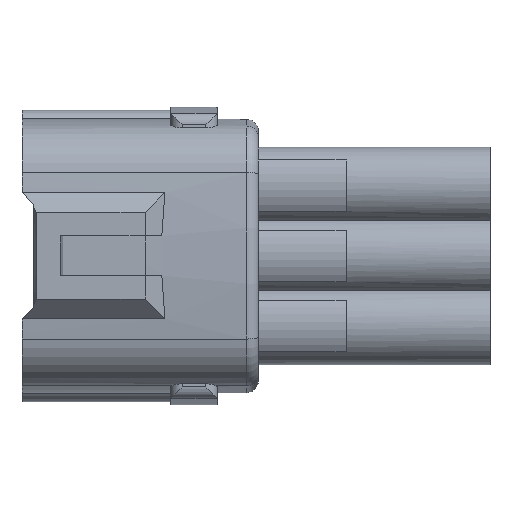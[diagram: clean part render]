
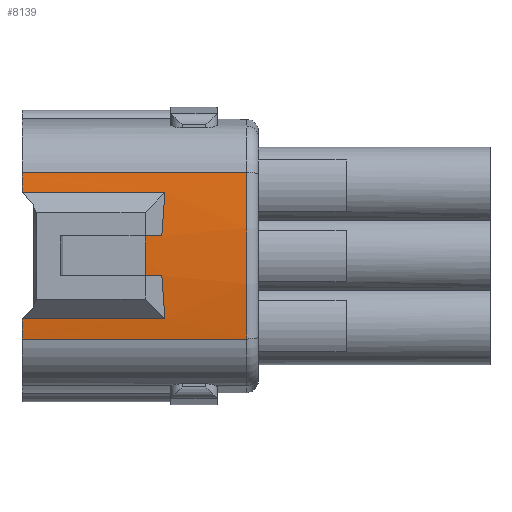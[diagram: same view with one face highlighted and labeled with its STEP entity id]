
A CAD part, top view. The second image highlights one B-rep face of the part: STEP entity #8139.
In plain terms, the highlighted cylindrical face has radius 50.2 mm (diameter 100.4 mm), a partial arc.
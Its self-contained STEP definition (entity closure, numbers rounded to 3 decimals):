
#2578=AXIS2_PLACEMENT_3D('Circle Axis2P3D',#2576,#2577,$) ;
#3229=AXIS2_PLACEMENT_3D('Circle Axis2P3D',#3227,#3228,$) ;
#3409=AXIS2_PLACEMENT_3D('Circle Axis2P3D',#3407,#3408,$) ;
#8104=AXIS2_PLACEMENT_3D('Cylinder Axis2P3D',#8101,#8102,#8103) ;
#8122=AXIS2_PLACEMENT_3D('Circle Axis2P3D',#8120,#8121,$) ;
#59=CARTESIAN_POINT('Vertex',(-6.786,11.39,7.51)) ;
#62=CARTESIAN_POINT('Line Origine',(-12.893,11.39,7.51)) ;
#66=CARTESIAN_POINT('Vertex',(-19.,11.39,7.51)) ;
#101=CARTESIAN_POINT('Vertex',(-7.047,4.3,7.771)) ;
#115=CARTESIAN_POINT('Vertex',(-6.786,0.61,7.51)) ;
#119=CARTESIAN_POINT('Control Point',(-6.786,0.61,7.51)) ;
#120=CARTESIAN_POINT('Control Point',(-6.865,1.343,7.589)) ;
#121=CARTESIAN_POINT('Control Point',(-6.931,2.08,7.655)) ;
#122=CARTESIAN_POINT('Control Point',(-6.983,2.819,7.707)) ;
#123=CARTESIAN_POINT('Control Point',(-7.022,3.559,7.746)) ;
#124=CARTESIAN_POINT('Control Point',(-7.047,4.3,7.771)) ;
#139=CARTESIAN_POINT('Vertex',(-7.047,7.7,7.771)) ;
#143=CARTESIAN_POINT('Control Point',(-7.047,7.7,7.771)) ;
#144=CARTESIAN_POINT('Control Point',(-7.022,8.441,7.746)) ;
#145=CARTESIAN_POINT('Control Point',(-6.983,9.181,7.707)) ;
#146=CARTESIAN_POINT('Control Point',(-6.931,9.92,7.655)) ;
#147=CARTESIAN_POINT('Control Point',(-6.865,10.657,7.589)) ;
#148=CARTESIAN_POINT('Control Point',(-6.786,11.39,7.51)) ;
#190=CARTESIAN_POINT('Vertex',(-19.,0.61,7.51)) ;
#193=CARTESIAN_POINT('Line Origine',(-12.893,0.61,7.51)) ;
#2573=CARTESIAN_POINT('Vertex',(-8.476,4.3,7.771)) ;
#2576=CARTESIAN_POINT('Axis2P3D Location',(-8.476,6.,-42.4)) ;
#2580=CARTESIAN_POINT('Vertex',(-8.476,7.7,7.771)) ;
#2726=CARTESIAN_POINT('Line Origine',(-7.761,7.7,7.771)) ;
#2745=CARTESIAN_POINT('Line Origine',(-7.761,4.3,7.771)) ;
#3224=CARTESIAN_POINT('Vertex',(-19.,-1.113,7.293)) ;
#3227=CARTESIAN_POINT('Axis2P3D Location',(-19.,6.,-42.4)) ;
#3407=CARTESIAN_POINT('Axis2P3D Location',(-19.,6.,-42.4)) ;
#3411=CARTESIAN_POINT('Vertex',(-19.,13.113,7.293)) ;
#8101=CARTESIAN_POINT('Axis2P3D Location',(-9.51,6.,-42.4)) ;
#8106=CARTESIAN_POINT('Line Origine',(-19.,13.113,7.293)) ;
#8110=CARTESIAN_POINT('Vertex',(0.2,13.113,7.293)) ;
#8113=CARTESIAN_POINT('Line Origine',(-19.,-1.113,7.293)) ;
#8117=CARTESIAN_POINT('Vertex',(0.2,-1.113,7.293)) ;
#8120=CARTESIAN_POINT('Axis2P3D Location',(0.2,6.,-42.4)) ;
#63=DIRECTION('Vector Direction',(-1.,0.,0.)) ;
#194=DIRECTION('Vector Direction',(-1.,0.,0.)) ;
#2577=DIRECTION('Axis2P3D Direction',(-1.,0.,0.)) ;
#2727=DIRECTION('Vector Direction',(-1.,0.,0.)) ;
#2746=DIRECTION('Vector Direction',(-1.,0.,0.)) ;
#3228=DIRECTION('Axis2P3D Direction',(1.,0.,0.)) ;
#3408=DIRECTION('Axis2P3D Direction',(1.,0.,0.)) ;
#8102=DIRECTION('Axis2P3D Direction',(-1.,0.,0.)) ;
#8103=DIRECTION('Axis2P3D XDirection',(0.,-0.142,0.99)) ;
#8107=DIRECTION('Vector Direction',(-1.,0.,0.)) ;
#8114=DIRECTION('Vector Direction',(-1.,0.,0.)) ;
#8121=DIRECTION('Axis2P3D Direction',(-1.,0.,0.)) ;
#64=VECTOR('Line Direction',#63,1.) ;
#195=VECTOR('Line Direction',#194,1.) ;
#2728=VECTOR('Line Direction',#2727,1.) ;
#2747=VECTOR('Line Direction',#2746,1.) ;
#8108=VECTOR('Line Direction',#8107,1.) ;
#8115=VECTOR('Line Direction',#8114,1.) ;
#8126=ORIENTED_EDGE('',*,*,#8112,.T.) ;
#8127=ORIENTED_EDGE('',*,*,#3413,.T.) ;
#8128=ORIENTED_EDGE('',*,*,#68,.F.) ;
#8129=ORIENTED_EDGE('',*,*,#149,.F.) ;
#8130=ORIENTED_EDGE('',*,*,#2730,.T.) ;
#8131=ORIENTED_EDGE('',*,*,#2582,.F.) ;
#8132=ORIENTED_EDGE('',*,*,#2749,.F.) ;
#8133=ORIENTED_EDGE('',*,*,#125,.F.) ;
#8134=ORIENTED_EDGE('',*,*,#197,.T.) ;
#8135=ORIENTED_EDGE('',*,*,#3231,.T.) ;
#8136=ORIENTED_EDGE('',*,*,#8119,.F.) ;
#8137=ORIENTED_EDGE('',*,*,#8124,.T.) ;
#8139=ADVANCED_FACE('\X2\FF8AFF9FFF70FF82\X0\ \X2\FF8EFF9EFF83FF9EFF68FF70\X0\',(#8138),#8105,.T.) ;
#118=B_SPLINE_CURVE_WITH_KNOTS('',5,(#119,#120,#121,#122,#123,#124),.UNSPECIFIED.,.F.,.U.,(6,6),(0.,5.247),.UNSPECIFIED.) ;
#142=B_SPLINE_CURVE_WITH_KNOTS('',5,(#143,#144,#145,#146,#147,#148),.UNSPECIFIED.,.F.,.U.,(6,6),(10.058,15.306),.UNSPECIFIED.) ;
#2579=CIRCLE('generated circle',#2578,50.2) ;
#3230=CIRCLE('generated circle',#3229,50.2) ;
#3410=CIRCLE('generated circle',#3409,50.2) ;
#8123=CIRCLE('generated circle',#8122,50.2) ;
#8105=CYLINDRICAL_SURFACE('generated cylinder',#8104,50.2) ;
#68=EDGE_CURVE('',#60,#67,#65,.T.) ;
#125=EDGE_CURVE('',#116,#102,#118,.T.) ;
#149=EDGE_CURVE('',#140,#60,#142,.T.) ;
#197=EDGE_CURVE('',#116,#191,#196,.T.) ;
#2582=EDGE_CURVE('',#2574,#2581,#2579,.T.) ;
#2730=EDGE_CURVE('',#140,#2581,#2729,.T.) ;
#2749=EDGE_CURVE('',#102,#2574,#2748,.T.) ;
#3231=EDGE_CURVE('',#191,#3225,#3230,.T.) ;
#3413=EDGE_CURVE('',#3412,#67,#3410,.T.) ;
#8112=EDGE_CURVE('',#8111,#3412,#8109,.T.) ;
#8119=EDGE_CURVE('',#8118,#3225,#8116,.T.) ;
#8124=EDGE_CURVE('',#8118,#8111,#8123,.T.) ;
#8125=EDGE_LOOP('',(#8126,#8127,#8128,#8129,#8130,#8131,#8132,#8133,#8134,#8135,#8136,#8137)) ;
#8138=FACE_OUTER_BOUND('',#8125,.T.) ;
#65=LINE('Line',#62,#64) ;
#196=LINE('Line',#193,#195) ;
#2729=LINE('Line',#2726,#2728) ;
#2748=LINE('Line',#2745,#2747) ;
#8109=LINE('Line',#8106,#8108) ;
#8116=LINE('Line',#8113,#8115) ;
#60=VERTEX_POINT('',#59) ;
#67=VERTEX_POINT('',#66) ;
#102=VERTEX_POINT('',#101) ;
#116=VERTEX_POINT('',#115) ;
#140=VERTEX_POINT('',#139) ;
#191=VERTEX_POINT('',#190) ;
#2574=VERTEX_POINT('',#2573) ;
#2581=VERTEX_POINT('',#2580) ;
#3225=VERTEX_POINT('',#3224) ;
#3412=VERTEX_POINT('',#3411) ;
#8111=VERTEX_POINT('',#8110) ;
#8118=VERTEX_POINT('',#8117) ;
